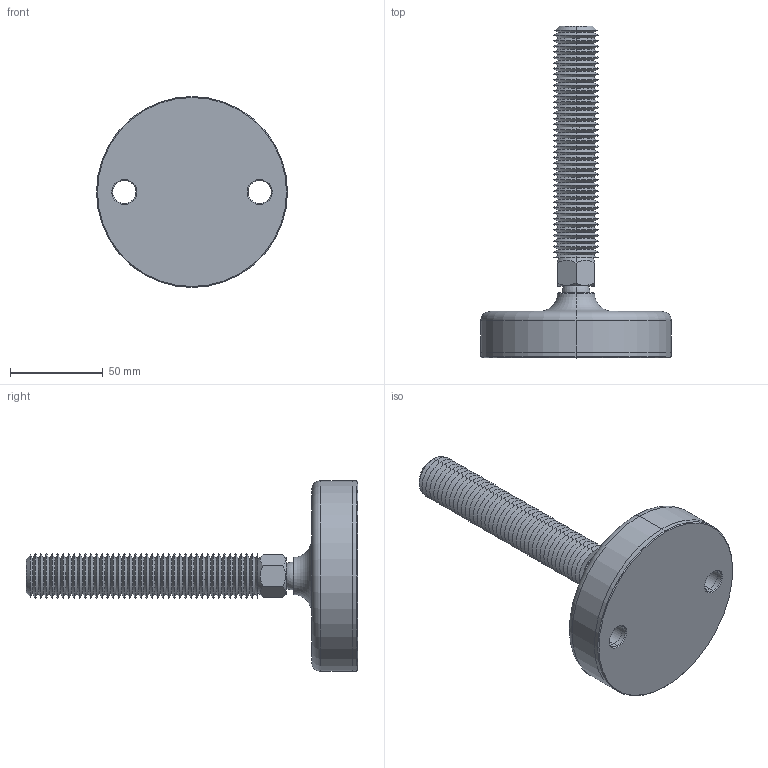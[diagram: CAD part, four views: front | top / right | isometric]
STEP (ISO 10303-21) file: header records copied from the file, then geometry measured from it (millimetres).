
FILE_DESCRIPTION (( 'STEP AP203' ), '1' );
FILE_NAME ('34724.W2402.step', '2019-11-28T22:20:20', ( '' ), ( '' ), 'SwSTEP 2.0', 'SolidWorks 2017', '' );
FILE_SCHEMA (( 'CONFIG_CONTROL_DESIGN' ));
Length unit declared in the file: millimetre
Products named in the file (4): Part1_34724.W2402; Part3_34724.W2402; Part2_34724.W2402; 34724.W2402
Assembly tree (3 placements, depth 2):
  34724.W2402
    Part1_34724.W2402
    Part2_34724.W2402
    Part3_34724.W2402
Bounding box: 103 x 179 x 103 mm (x, y, z)
Volume: 256031 mm3; surface area: 61080.7 mm2
Topology: 3 solids, 3 shells, 216 faces, 447 edges, 237 vertices
Faces by surface type: cone 182, plane 14, cylinder 12, sphere 4, torus 4
Entity records: 6066 total; most frequent: DIRECTION 1096, CARTESIAN_POINT 1044, ORIENTED_EDGE 876, AXIS2_PLACEMENT_3D 448, EDGE_CURVE 438, VERTEX_POINT 232, EDGE_LOOP 228, CIRCLE 226
